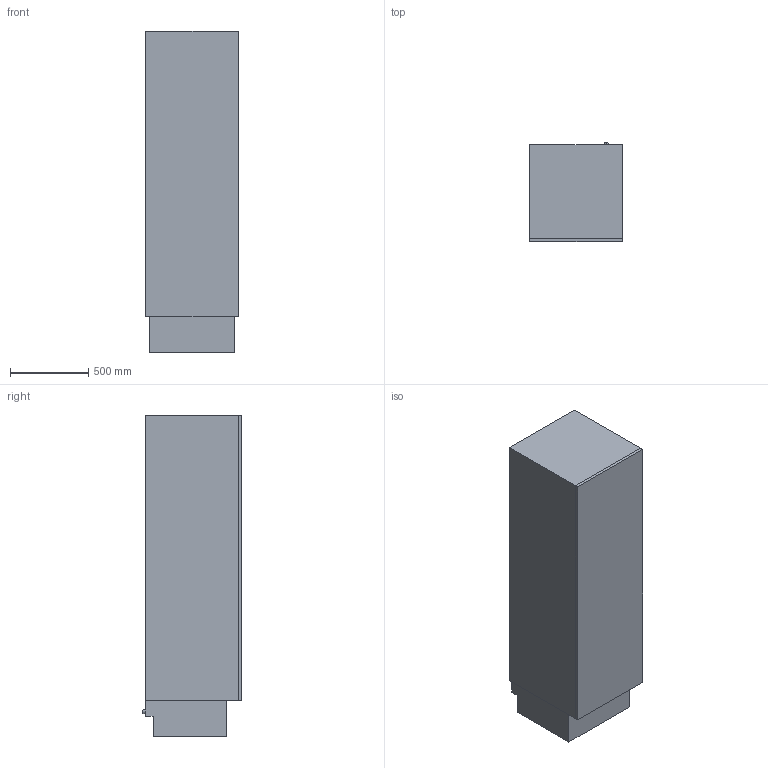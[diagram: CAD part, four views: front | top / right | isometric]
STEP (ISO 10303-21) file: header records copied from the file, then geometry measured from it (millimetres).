
FILE_DESCRIPTION(/* description */ (''),/* implementation_level */ '2;1');
FILE_NAME(/* name */ 'FR6205NHVIL',/* time_stamp */ '2025-12-11T18:31:43+01:00',/* author */ (''),/* organization */ (''),/* preprocessor_version */ 'ST-DEVELOPER v16.5',/* originating_system */ 'Rhino 7.38',/* authorisation */ '');
FILE_SCHEMA (('AUTOMOTIVE_DESIGN'));
Length unit declared in the file: millimetre
Products named in the file (1): Document
Bounding box: 587 x 635 x 2050 mm (x, y, z)
Volume: 718421764.3 mm3; surface area: 8277098.6 mm2
Topology: 4 solids, 4 shells, 24 faces, 48 edges, 32 vertices
Faces by surface type: plane 22, bspline 2
Entity records: 625 total; most frequent: CARTESIAN_POINT 200, ORIENTED_EDGE 96, EDGE_CURVE 48, B_SPLINE_CURVE_WITH_KNOTS 44, VERTEX_POINT 32, DIRECTION 26, ADVANCED_FACE 24, FACE_OUTER_BOUND 24
